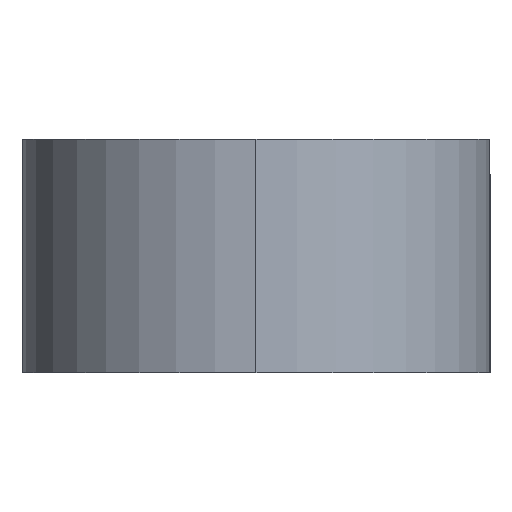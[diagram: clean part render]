
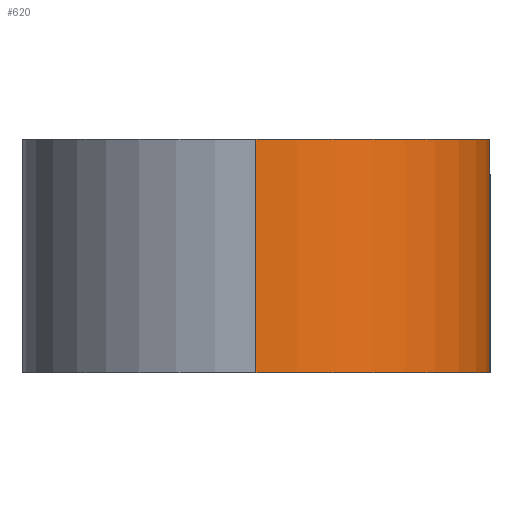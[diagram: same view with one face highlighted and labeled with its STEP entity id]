
A CAD part, left-side view. The second image highlights one B-rep face of the part: STEP entity #620.
In plain terms, the highlighted cylindrical face has radius 10 mm (diameter 20 mm), a partial arc.
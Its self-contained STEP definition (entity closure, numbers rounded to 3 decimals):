
#6 = VERTEX_POINT ( 'NONE', #1045 ) ;
#9 = VERTEX_POINT ( 'NONE', #1107 ) ;
#35 = VERTEX_POINT ( 'NONE', #1082 ) ;
#93 = ORIENTED_EDGE ( 'NONE', *, *, #624, .F. ) ;
#98 = ORIENTED_EDGE ( 'NONE', *, *, #605, .T. ) ;
#99 = ORIENTED_EDGE ( 'NONE', *, *, #668, .T. ) ;
#100 = ORIENTED_EDGE ( 'NONE', *, *, #654, .F. ) ;
#243 = EDGE_LOOP ( 'NONE', ( #100, #99, #98, #93 ) ) ;
#323 = VERTEX_POINT ( 'NONE', #1058 ) ;
#351 = LINE ( 'NONE', #924, #437 ) ;
#367 = CYLINDRICAL_SURFACE ( 'NONE', #513, 10. ) ;
#374 = FACE_OUTER_BOUND ( 'NONE', #243, .T. ) ;
#377 = LINE ( 'NONE', #750, #504 ) ;
#437 = VECTOR ( 'NONE', #925, 1000. ) ;
#453 = AXIS2_PLACEMENT_3D ( 'NONE', #842, #841, #840 ) ;
#454 = CIRCLE ( 'NONE', #453, 10. ) ;
#504 = VECTOR ( 'NONE', #749, 1000. ) ;
#513 = AXIS2_PLACEMENT_3D ( 'NONE', #763, #762, #761 ) ;
#529 = AXIS2_PLACEMENT_3D ( 'NONE', #812, #811, #810 ) ;
#535 = CIRCLE ( 'NONE', #529, 10. ) ;
#605 = EDGE_CURVE ( 'NONE', #35, #9, #535, .T. ) ;
#620 = ADVANCED_FACE ( 'NONE', ( #374 ), #367, .T. ) ;
#624 = EDGE_CURVE ( 'NONE', #6, #9, #377, .T. ) ;
#654 = EDGE_CURVE ( 'NONE', #323, #6, #454, .T. ) ;
#668 = EDGE_CURVE ( 'NONE', #323, #35, #351, .T. ) ;
#749 = DIRECTION ( 'NONE',  ( 0., 0., -1. ) ) ;
#750 = CARTESIAN_POINT ( 'NONE',  ( 0., -10., 5. ) ) ;
#761 = DIRECTION ( 'NONE',  ( -1., 0., 0. ) ) ;
#762 = DIRECTION ( 'NONE',  ( 0., 0., -1. ) ) ;
#763 = CARTESIAN_POINT ( 'NONE',  ( 0., 0., 5. ) ) ;
#810 = DIRECTION ( 'NONE',  ( 1., 0., 0. ) ) ;
#811 = DIRECTION ( 'NONE',  ( 0., 0., 1. ) ) ;
#812 = CARTESIAN_POINT ( 'NONE',  ( 0., 0., -5. ) ) ;
#840 = DIRECTION ( 'NONE',  ( 1., 0., 0. ) ) ;
#841 = DIRECTION ( 'NONE',  ( 0., 0., 1. ) ) ;
#842 = CARTESIAN_POINT ( 'NONE',  ( 0., 0., 5. ) ) ;
#924 = CARTESIAN_POINT ( 'NONE',  ( -10., 0., 5. ) ) ;
#925 = DIRECTION ( 'NONE',  ( 0., 0., -1. ) ) ;
#1045 = CARTESIAN_POINT ( 'NONE',  ( 0., -10., 5. ) ) ;
#1058 = CARTESIAN_POINT ( 'NONE',  ( -10., 0., 5. ) ) ;
#1082 = CARTESIAN_POINT ( 'NONE',  ( -10., 0., -5. ) ) ;
#1107 = CARTESIAN_POINT ( 'NONE',  ( 0., -10., -5. ) ) ;
